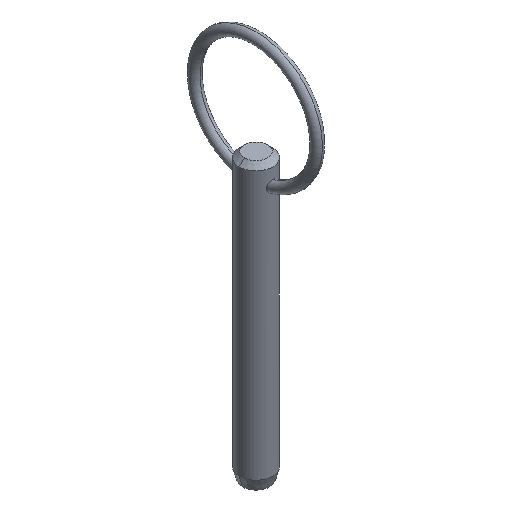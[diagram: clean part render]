
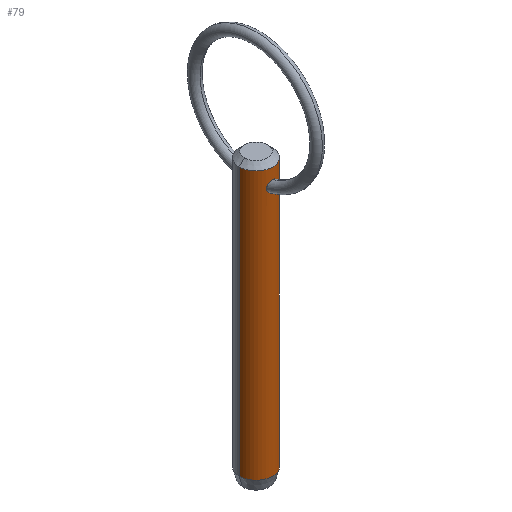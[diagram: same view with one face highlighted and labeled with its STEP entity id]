
A CAD part, isometric view. The second image highlights one B-rep face of the part: STEP entity #79.
In plain terms, the highlighted cylindrical face has radius 3.175 mm (diameter 6.35 mm), a partial arc.
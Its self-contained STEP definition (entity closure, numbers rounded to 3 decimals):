
#1 = CARTESIAN_POINT ( 'NONE',  ( 3.175, 0., 40.7 ) ) ;
#5 = CARTESIAN_POINT ( 'NONE',  ( 0.51, -3.136, 43.034 ) ) ;
#10 = CARTESIAN_POINT ( 'NONE',  ( -3.175, 0., -5.92 ) ) ;
#13 = DIRECTION ( 'NONE',  ( 0., 0., 1. ) ) ;
#21 = CARTESIAN_POINT ( 'NONE',  ( -0.615, -3.116, 42.953 ) ) ;
#25 = CARTESIAN_POINT ( 'NONE',  ( -0.269, -3.166, 41.129 ) ) ;
#38 = B_SPLINE_CURVE_WITH_KNOTS ( 'NONE', 3,
 ( #42, #77, #383, #5, #47, #390, #426, #228, #358, #432, #275, #185, #230, #351, #80, #268 ),
 .UNSPECIFIED., .F., .F.,
 ( 4, 2, 2, 2, 2, 2, 2, 4 ),
 ( 0.003, 0.003, 0.004, 0.004, 0.005, 0.005, 0.006, 0.006 ),
 .UNSPECIFIED. ) ;
#42 = CARTESIAN_POINT ( 'NONE',  ( 0., -3.175, 43.182 ) ) ;
#45 = VERTEX_POINT ( 'NONE', #10 ) ;
#46 = VERTEX_POINT ( 'NONE', #352 ) ;
#47 = CARTESIAN_POINT ( 'NONE',  ( 0.617, -3.116, 42.951 ) ) ;
#49 = CARTESIAN_POINT ( 'NONE',  ( -0.983, -3.02, 41.859 ) ) ;
#70 = CARTESIAN_POINT ( 'NONE',  ( 0., 0., 45.28 ) ) ;
#71 = AXIS2_PLACEMENT_3D ( 'NONE', #70, #220, #347 ) ;
#77 = CARTESIAN_POINT ( 'NONE',  ( 0.134, -3.175, 43.182 ) ) ;
#79 = ADVANCED_FACE ( 'NONE', ( #102, #480 ), #401, .T. ) ;
#80 = CARTESIAN_POINT ( 'NONE',  ( 0.134, -3.175, 41.103 ) ) ;
#85 = CARTESIAN_POINT ( 'NONE',  ( -0.882, -3.055, 42.66 ) ) ;
#90 = CARTESIAN_POINT ( 'NONE',  ( -0.328, -3.159, 43.121 ) ) ;
#91 = DIRECTION ( 'NONE',  ( -1., 0., 0. ) ) ;
#92 = EDGE_CURVE ( 'NONE', #130, #430, #224, .T. ) ;
#102 = FACE_OUTER_BOUND ( 'NONE', #380, .T. ) ;
#108 = DIRECTION ( 'NONE',  ( 0., 0., -1. ) ) ;
#120 = CARTESIAN_POINT ( 'NONE',  ( -0.133, -3.173, 43.174 ) ) ;
#122 = CARTESIAN_POINT ( 'NONE',  ( -0.264, -3.165, 43.144 ) ) ;
#130 = VERTEX_POINT ( 'NONE', #466 ) ;
#155 = CARTESIAN_POINT ( 'NONE',  ( 3.175, 0., 45.28 ) ) ;
#159 = VECTOR ( 'NONE', #227, 1000. ) ;
#161 = CARTESIAN_POINT ( 'NONE',  ( -0.991, -3.016, 42.396 ) ) ;
#169 = CARTESIAN_POINT ( 'NONE',  ( 0., 0., 40.7 ) ) ;
#180 = VECTOR ( 'NONE', #108, 1000. ) ;
#185 = CARTESIAN_POINT ( 'NONE',  ( 0.628, -3.114, 41.304 ) ) ;
#203 = CARTESIAN_POINT ( 'NONE',  ( -0.888, -3.049, 41.609 ) ) ;
#204 = CARTESIAN_POINT ( 'NONE',  ( 0., -3.175, 41.103 ) ) ;
#218 = CIRCLE ( 'NONE', #463, 3.175 ) ;
#220 = DIRECTION ( 'NONE',  ( 0., 0., -1. ) ) ;
#221 = ORIENTED_EDGE ( 'NONE', *, *, #276, .T. ) ;
#224 = B_SPLINE_CURVE_WITH_KNOTS ( 'NONE', 3,
 ( #204, #249, #25, #363, #332, #471, #203, #49, #324, #161, #85, #21, #360, #90, #122, #120, #398, #435 ),
 .UNSPECIFIED., .F., .F.,
 ( 4, 2, 2, 2, 2, 2, 2, 2, 4 ),
 ( 0.006, 0.006, 0.007, 0.007, 0.008, 0.008, 0.009, 0.009, 0.009 ),
 .UNSPECIFIED. ) ;
#227 = DIRECTION ( 'NONE',  ( 0., 0., -1. ) ) ;
#228 = CARTESIAN_POINT ( 'NONE',  ( 1.004, -3.012, 41.993 ) ) ;
#230 = CARTESIAN_POINT ( 'NONE',  ( 0.515, -3.135, 41.23 ) ) ;
#236 = CARTESIAN_POINT ( 'NONE',  ( 0., 0., -5.92 ) ) ;
#247 = DIRECTION ( 'NONE',  ( 0., 0., -1. ) ) ;
#248 = ORIENTED_EDGE ( 'NONE', *, *, #425, .T. ) ;
#249 = CARTESIAN_POINT ( 'NONE',  ( -0.134, -3.175, 41.103 ) ) ;
#250 = ORIENTED_EDGE ( 'NONE', *, *, #465, .T. ) ;
#266 = ORIENTED_EDGE ( 'NONE', *, *, #448, .F. ) ;
#268 = CARTESIAN_POINT ( 'NONE',  ( 0., -3.175, 41.103 ) ) ;
#269 = CARTESIAN_POINT ( 'NONE',  ( 0., -3.175, 43.182 ) ) ;
#275 = CARTESIAN_POINT ( 'NONE',  ( 0.815, -3.07, 41.495 ) ) ;
#276 = EDGE_CURVE ( 'NONE', #45, #46, #218, .T. ) ;
#277 = DIRECTION ( 'NONE',  ( -1., 0., 0. ) ) ;
#288 = LINE ( 'NONE', #318, #180 ) ;
#318 = CARTESIAN_POINT ( 'NONE',  ( -3.175, 0., 40.7 ) ) ;
#324 = CARTESIAN_POINT ( 'NONE',  ( -1.004, -3.012, 41.995 ) ) ;
#332 = CARTESIAN_POINT ( 'NONE',  ( -0.629, -3.114, 41.305 ) ) ;
#343 = EDGE_LOOP ( 'NONE', ( #248, #394 ) ) ;
#344 = EDGE_CURVE ( 'NONE', #367, #431, #359, .T. ) ;
#347 = DIRECTION ( 'NONE',  ( 1., 0., 0. ) ) ;
#351 = CARTESIAN_POINT ( 'NONE',  ( 0.268, -3.166, 41.129 ) ) ;
#352 = CARTESIAN_POINT ( 'NONE',  ( 3.175, 0., -5.92 ) ) ;
#353 = LINE ( 'NONE', #1, #159 ) ;
#354 = CARTESIAN_POINT ( 'NONE',  ( -3.175, 0., 45.28 ) ) ;
#358 = CARTESIAN_POINT ( 'NONE',  ( 0.982, -3.02, 41.858 ) ) ;
#359 = CIRCLE ( 'NONE', #71, 3.175 ) ;
#360 = CARTESIAN_POINT ( 'NONE',  ( -0.508, -3.136, 43.035 ) ) ;
#363 = CARTESIAN_POINT ( 'NONE',  ( -0.516, -3.135, 41.231 ) ) ;
#367 = VERTEX_POINT ( 'NONE', #155 ) ;
#370 = AXIS2_PLACEMENT_3D ( 'NONE', #169, #247, #91 ) ;
#380 = EDGE_LOOP ( 'NONE', ( #266, #395, #250, #221 ) ) ;
#383 = CARTESIAN_POINT ( 'NONE',  ( 0.269, -3.166, 43.15 ) ) ;
#390 = CARTESIAN_POINT ( 'NONE',  ( 0.884, -3.055, 42.657 ) ) ;
#394 = ORIENTED_EDGE ( 'NONE', *, *, #92, .T. ) ;
#395 = ORIENTED_EDGE ( 'NONE', *, *, #344, .T. ) ;
#398 = CARTESIAN_POINT ( 'NONE',  ( -0.067, -3.175, 43.182 ) ) ;
#401 = CYLINDRICAL_SURFACE ( 'NONE', #370, 3.175 ) ;
#425 = EDGE_CURVE ( 'NONE', #430, #130, #38, .T. ) ;
#426 = CARTESIAN_POINT ( 'NONE',  ( 0.992, -3.016, 42.394 ) ) ;
#430 = VERTEX_POINT ( 'NONE', #269 ) ;
#431 = VERTEX_POINT ( 'NONE', #354 ) ;
#432 = CARTESIAN_POINT ( 'NONE',  ( 0.888, -3.049, 41.609 ) ) ;
#435 = CARTESIAN_POINT ( 'NONE',  ( 0., -3.175, 43.182 ) ) ;
#448 = EDGE_CURVE ( 'NONE', #367, #46, #353, .T. ) ;
#463 = AXIS2_PLACEMENT_3D ( 'NONE', #236, #13, #277 ) ;
#465 = EDGE_CURVE ( 'NONE', #431, #45, #288, .T. ) ;
#466 = CARTESIAN_POINT ( 'NONE',  ( 0., -3.175, 41.103 ) ) ;
#471 = CARTESIAN_POINT ( 'NONE',  ( -0.815, -3.07, 41.495 ) ) ;
#480 = FACE_BOUND ( 'NONE', #343, .T. ) ;
